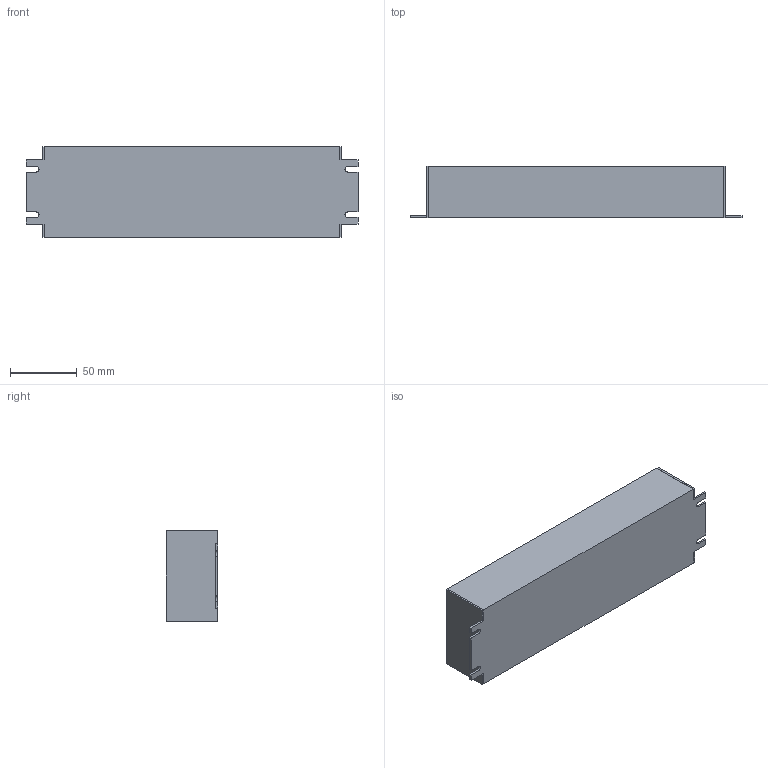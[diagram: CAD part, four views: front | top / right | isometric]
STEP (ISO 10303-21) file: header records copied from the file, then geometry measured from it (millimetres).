
FILE_DESCRIPTION((''),'2;1');
FILE_NAME('NN_CASE_JF','2015-10-04T',('Joe'),(''),'CREO PARAMETRIC BY PTC INC, 2014350','CREO PARAMETRIC BY PTC INC, 2014350','');
FILE_SCHEMA(('CONFIG_CONTROL_DESIGN'));
Length unit declared in the file: inch
Products named in the file (1): NN_CASE_JF
Bounding box: 249.17 x 38.61 x 68.07 mm (x, y, z)
Volume: 592721.4 mm3; surface area: 65691.9 mm2
Topology: 1 solids, 1 shells, 49 faces, 138 edges, 92 vertices
Faces by surface type: plane 43, cylinder 6
Entity records: 1604 total; most frequent: CARTESIAN_POINT 279, ORIENTED_EDGE 276, DIRECTION 248, EDGE_CURVE 138, VECTOR 126, LINE 126, VERTEX_POINT 92, AXIS2_PLACEMENT_3D 61
